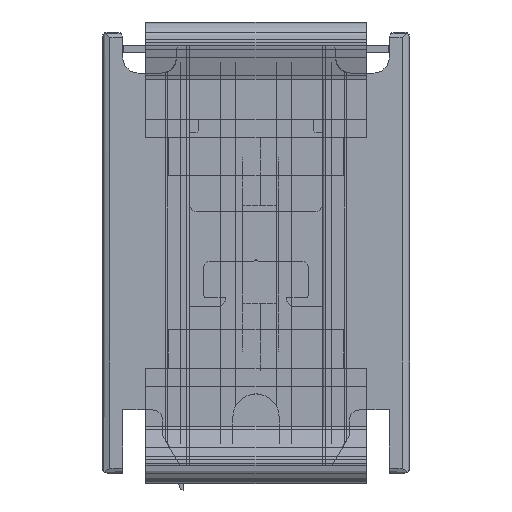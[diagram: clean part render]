
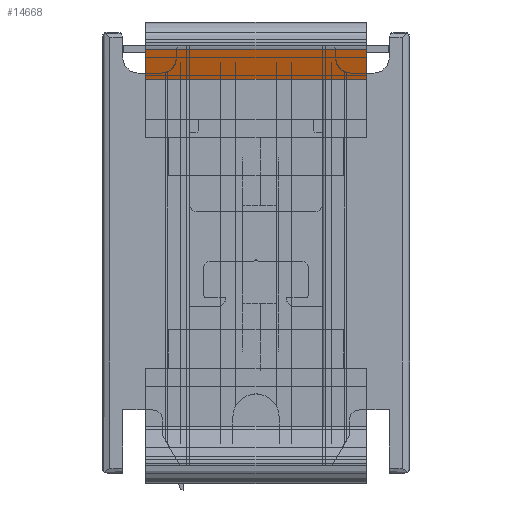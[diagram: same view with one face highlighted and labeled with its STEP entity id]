
A CAD part, front view. The second image highlights one B-rep face of the part: STEP entity #14668.
In plain terms, the highlighted planar face has unit normal (0, -0.946, -0.326).
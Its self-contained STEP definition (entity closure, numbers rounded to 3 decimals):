
#2013 = ORIENTED_EDGE ( 'NONE', *, *, #6604, .T. ) ;
#2241 = DIRECTION ( 'NONE',  ( 0., 0.326, -0.946 ) ) ;
#2762 = DIRECTION ( 'NONE',  ( 0., -0.946, -0.326 ) ) ;
#2963 = CARTESIAN_POINT ( 'NONE',  ( 8618.5, -7819.404, 411.878 ) ) ;
#3346 = CARTESIAN_POINT ( 'NONE',  ( 8661.5, -7831.664, 447.481 ) ) ;
#3627 = AXIS2_PLACEMENT_3D ( 'NONE', #32017, #2762, #2241 ) ;
#4019 = EDGE_CURVE ( 'NONE', #26395, #30562, #25408, .T. ) ;
#4447 = DIRECTION ( 'NONE',  ( 0., -0.326, 0.946 ) ) ;
#5125 = FACE_OUTER_BOUND ( 'NONE', #14475, .T. ) ;
#5945 = EDGE_CURVE ( 'NONE', #24333, #15310, #23325, .T. ) ;
#6604 = EDGE_CURVE ( 'NONE', #26395, #24333, #21309, .T. ) ;
#7154 = CARTESIAN_POINT ( 'NONE',  ( 8661.5, -7819.404, 411.878 ) ) ;
#10597 = CARTESIAN_POINT ( 'NONE',  ( 8618.5, -7831.664, 447.481 ) ) ;
#10725 = ORIENTED_EDGE ( 'NONE', *, *, #4019, .F. ) ;
#11400 = DIRECTION ( 'NONE',  ( 0., -0.326, 0.946 ) ) ;
#13473 = CARTESIAN_POINT ( 'NONE',  ( 8661.5, -7831.664, 447.481 ) ) ;
#14295 = DIRECTION ( 'NONE',  ( -1., 0., 0. ) ) ;
#14475 = EDGE_LOOP ( 'NONE', ( #19611, #10725, #2013, #23016 ) ) ;
#14668 = ADVANCED_FACE ( 'NONE', ( #5125 ), #19100, .T. ) ;
#15310 = VERTEX_POINT ( 'NONE', #28188 ) ;
#19100 = PLANE ( 'NONE',  #3627 ) ;
#19611 = ORIENTED_EDGE ( 'NONE', *, *, #35092, .F. ) ;
#20230 = VECTOR ( 'NONE', #4447, 1000. ) ;
#20448 = CARTESIAN_POINT ( 'NONE',  ( 8661.5, -7833.682, 453.344 ) ) ;
#21309 = LINE ( 'NONE', #7154, #20230 ) ;
#22151 = CARTESIAN_POINT ( 'NONE',  ( 8661.5, -7833.682, 453.344 ) ) ;
#22974 = DIRECTION ( 'NONE',  ( -1., 0., 0. ) ) ;
#23016 = ORIENTED_EDGE ( 'NONE', *, *, #5945, .T. ) ;
#23325 = LINE ( 'NONE', #20448, #32795 ) ;
#24333 = VERTEX_POINT ( 'NONE', #22151 ) ;
#25375 = LINE ( 'NONE', #2963, #27460 ) ;
#25408 = LINE ( 'NONE', #3346, #30341 ) ;
#26395 = VERTEX_POINT ( 'NONE', #13473 ) ;
#27460 = VECTOR ( 'NONE', #11400, 1000. ) ;
#28188 = CARTESIAN_POINT ( 'NONE',  ( 8618.5, -7833.682, 453.344 ) ) ;
#30341 = VECTOR ( 'NONE', #14295, 1000. ) ;
#30562 = VERTEX_POINT ( 'NONE', #10597 ) ;
#32017 = CARTESIAN_POINT ( 'NONE',  ( 8661.5, -7819.404, 411.878 ) ) ;
#32795 = VECTOR ( 'NONE', #22974, 1000. ) ;
#35092 = EDGE_CURVE ( 'NONE', #30562, #15310, #25375, .T. ) ;
